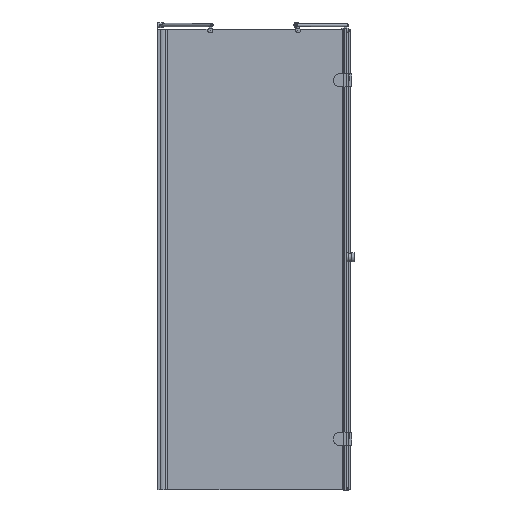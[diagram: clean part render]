
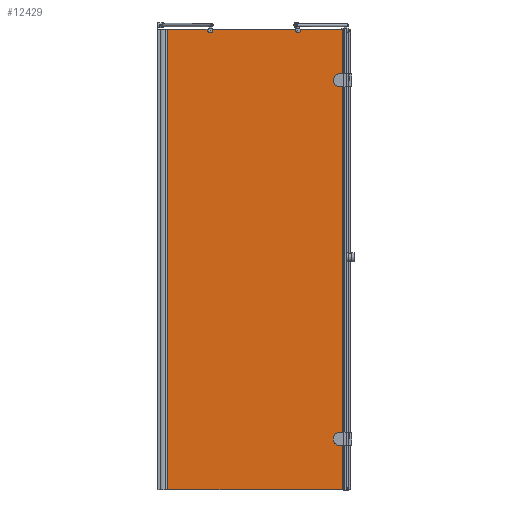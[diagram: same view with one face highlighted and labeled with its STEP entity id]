
A CAD part, front view. The second image highlights one B-rep face of the part: STEP entity #12429.
In plain terms, the highlighted planar face has unit normal (0, -1, 0).
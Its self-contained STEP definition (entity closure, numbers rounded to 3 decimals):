
#310=LINE($,#18709,#1528);
#311=LINE($,#18713,#1529);
#312=LINE($,#18715,#1530);
#313=LINE($,#18717,#1531);
#314=LINE($,#18719,#1532);
#315=LINE($,#18721,#1533);
#316=LINE($,#18723,#1534);
#317=LINE($,#18725,#1535);
#318=LINE($,#18727,#1536);
#319=LINE($,#18729,#1537);
#320=LINE($,#18731,#1538);
#321=LINE($,#18733,#1539);
#322=LINE($,#18734,#1540);
#1528=VECTOR($,#14925,344.574);
#1529=VECTOR($,#14928,180.474);
#1530=VECTOR($,#14929,1.);
#1531=VECTOR($,#14930,14.302);
#1532=VECTOR($,#14931,1900.);
#1533=VECTOR($,#14932,725.698);
#1534=VECTOR($,#14933,1.);
#1535=VECTOR($,#14934,1900.);
#1536=VECTOR($,#14935,2.443);
#1537=VECTOR($,#14936,1900.);
#1538=VECTOR($,#14937,2.557);
#1539=VECTOR($,#14938,1900.);
#1540=VECTOR($,#14939,174.231);
#2828=FACE_BOUND($,#3783,.T.);
#2829=FACE_BOUND($,#3784,.T.);
#2830=FACE_BOUND($,#3785,.T.);
#3783=EDGE_LOOP($,(#8322));
#3784=EDGE_LOOP($,(#8323));
#3785=EDGE_LOOP($,(#8324,#8325,#8326,#8327,#8328,#8329,#8330,#8331,#8332,
#8333,#8334,#8335,#8336,#8337,#8338));
#4435=CIRCLE($,#13151,5.5);
#4453=CIRCLE($,#13191,5.5);
#4473=CIRCLE($,#13233,10.);
#4486=CIRCLE($,#13257,10.);
#4977=VERTEX_POINT($,#18245);
#5007=VERTEX_POINT($,#18335);
#5044=VERTEX_POINT($,#18474);
#5045=VERTEX_POINT($,#18476);
#5066=VERTEX_POINT($,#18708);
#5067=VERTEX_POINT($,#18710);
#5068=VERTEX_POINT($,#18712);
#5069=VERTEX_POINT($,#18714);
#5070=VERTEX_POINT($,#18716);
#5071=VERTEX_POINT($,#18718);
#5072=VERTEX_POINT($,#18720);
#5073=VERTEX_POINT($,#18722);
#5074=VERTEX_POINT($,#18724);
#5075=VERTEX_POINT($,#18726);
#5076=VERTEX_POINT($,#18728);
#5077=VERTEX_POINT($,#18730);
#5078=VERTEX_POINT($,#18732);
#6166=EDGE_CURVE($,#4977,#4977,#4435,.T.);
#6204=EDGE_CURVE($,#5007,#5007,#4453,.T.);
#6249=EDGE_CURVE($,#5045,#5044,#4473,.T.);
#6273=EDGE_CURVE($,#5044,#5066,#310,.T.);
#6274=EDGE_CURVE($,#5066,#5067,#4486,.T.);
#6275=EDGE_CURVE($,#5067,#5068,#311,.T.);
#6276=EDGE_CURVE($,#5068,#5069,#312,.T.);
#6277=EDGE_CURVE($,#5069,#5070,#313,.T.);
#6278=EDGE_CURVE($,#5071,#5070,#314,.T.);
#6279=EDGE_CURVE($,#5071,#5072,#315,.T.);
#6280=EDGE_CURVE($,#5073,#5072,#316,.T.);
#6281=EDGE_CURVE($,#5074,#5073,#317,.T.);
#6282=EDGE_CURVE($,#5074,#5075,#318,.T.);
#6283=EDGE_CURVE($,#5075,#5076,#319,.T.);
#6284=EDGE_CURVE($,#5076,#5077,#320,.T.);
#6285=EDGE_CURVE($,#5077,#5078,#321,.T.);
#6286=EDGE_CURVE($,#5078,#5045,#322,.T.);
#8322=ORIENTED_EDGE($,*,*,#6166,.T.);
#8323=ORIENTED_EDGE($,*,*,#6204,.T.);
#8324=ORIENTED_EDGE($,*,*,#6249,.T.);
#8325=ORIENTED_EDGE($,*,*,#6273,.T.);
#8326=ORIENTED_EDGE($,*,*,#6274,.T.);
#8327=ORIENTED_EDGE($,*,*,#6275,.T.);
#8328=ORIENTED_EDGE($,*,*,#6276,.T.);
#8329=ORIENTED_EDGE($,*,*,#6277,.T.);
#8330=ORIENTED_EDGE($,*,*,#6278,.F.);
#8331=ORIENTED_EDGE($,*,*,#6279,.T.);
#8332=ORIENTED_EDGE($,*,*,#6280,.F.);
#8333=ORIENTED_EDGE($,*,*,#6281,.F.);
#8334=ORIENTED_EDGE($,*,*,#6282,.T.);
#8335=ORIENTED_EDGE($,*,*,#6283,.T.);
#8336=ORIENTED_EDGE($,*,*,#6284,.T.);
#8337=ORIENTED_EDGE($,*,*,#6285,.T.);
#8338=ORIENTED_EDGE($,*,*,#6286,.T.);
#11181=PLANE($,#13256);
#12429=ADVANCED_FACE($,(#2828,#2829,#2830),#11181,.T.);
#13151=AXIS2_PLACEMENT_3D($,#18246,#14669,#14670);
#13191=AXIS2_PLACEMENT_3D($,#18336,#14769,#14770);
#13233=AXIS2_PLACEMENT_3D($,#18477,#14874,#14875);
#13256=AXIS2_PLACEMENT_3D($,#18707,#14923,#14924);
#13257=AXIS2_PLACEMENT_3D($,#18711,#14926,#14927);
#14669=DIRECTION('center_axis',(0.,1.,0.));
#14670=DIRECTION('ref_axis',(1.,0.,0.));
#14769=DIRECTION('center_axis',(0.,1.,0.));
#14770=DIRECTION('ref_axis',(1.,0.,0.));
#14874=DIRECTION('center_axis',(0.,1.,0.));
#14875=DIRECTION('ref_axis',(-0.947,0.,-0.322));
#14923=DIRECTION('center_axis',(0.,-1.,0.));
#14924=DIRECTION('ref_axis',(-1.,0.,0.));
#14925=DIRECTION($,(-1.,0.,0.));
#14926=DIRECTION('center_axis',(0.,1.,0.));
#14927=DIRECTION('ref_axis',(-0.597,0.,
0.802));
#14928=DIRECTION($,(-1.,0.,0.));
#14929=DIRECTION($,(0.,0.,-1.));
#14930=DIRECTION($,(1.,0.,0.));
#14931=DIRECTION($,(0.,0.,1.));
#14932=DIRECTION($,(1.,0.,0.));
#14933=DIRECTION($,(0.,0.,-1.));
#14934=DIRECTION($,(0.,0.,-1.));
#14935=DIRECTION($,(-1.,0.,0.));
#14936=DIRECTION($,(0.,0.,-1.));
#14937=DIRECTION($,(-1.,0.,0.));
#14938=DIRECTION($,(0.,0.,1.));
#14939=DIRECTION($,(-1.,0.,0.));
#18245=CARTESIAN_POINT('',(1194.233,-134.044,-304.056));
#18246=CARTESIAN_POINT('Origin',(1199.733,-134.044,-304.056));
#18335=CARTESIAN_POINT('',(1194.233,-134.044,1175.944));
#18336=CARTESIAN_POINT('Origin',(1199.733,-134.044,1175.944));
#18474=CARTESIAN_POINT('',(1024.641,-134.044,1385.944));
#18476=CARTESIAN_POINT('',(1042.502,-134.044,1385.944));
#18477=CARTESIAN_POINT('Origin',(1033.572,-134.044,1381.444));
#18707=CARTESIAN_POINT('Origin',(1221.733,-134.044,1385.944));
#18708=CARTESIAN_POINT('',(680.068,-134.044,1385.944));
#18709=CARTESIAN_POINT($,(1221.733,-134.044,1385.944));
#18710=CARTESIAN_POINT('',(662.207,-134.044,1385.944));
#18711=CARTESIAN_POINT('Origin',(671.137,-134.044,1381.444));
#18712=CARTESIAN_POINT('',(481.733,-134.044,1385.944));
#18713=CARTESIAN_POINT($,(1221.733,-134.044,1385.944));
#18714=CARTESIAN_POINT('',(481.733,-134.044,1384.944));
#18715=CARTESIAN_POINT($,(481.733,-134.044,1385.944));
#18716=CARTESIAN_POINT('',(496.035,-134.044,1384.944));
#18717=CARTESIAN_POINT($,(850.215,-134.044,1384.944));
#18718=CARTESIAN_POINT('',(496.035,-134.044,-515.056));
#18719=CARTESIAN_POINT($,(496.035,-134.044,-515.056));
#18720=CARTESIAN_POINT('',(1221.733,-134.044,-515.056));
#18721=CARTESIAN_POINT($,(481.733,-134.044,-515.056));
#18722=CARTESIAN_POINT('',(1221.733,-134.044,-514.056));
#18723=CARTESIAN_POINT($,(1221.733,-134.044,1385.944));
#18724=CARTESIAN_POINT('',(1221.733,-134.044,1385.944));
#18725=CARTESIAN_POINT($,(1221.733,-134.044,1385.944));
#18726=CARTESIAN_POINT('',(1219.29,-134.044,1385.944));
#18727=CARTESIAN_POINT($,(1221.733,-134.044,1385.944));
#18728=CARTESIAN_POINT('',(1219.29,-134.044,-514.056));
#18729=CARTESIAN_POINT($,(1219.29,-134.044,435.944));
#18730=CARTESIAN_POINT('',(1216.733,-134.044,-514.056));
#18731=CARTESIAN_POINT($,(1219.616,-134.044,-514.056));
#18732=CARTESIAN_POINT('',(1216.733,-134.044,1385.944));
#18733=CARTESIAN_POINT($,(1216.733,-134.044,435.944));
#18734=CARTESIAN_POINT($,(1221.733,-134.044,1385.944));
